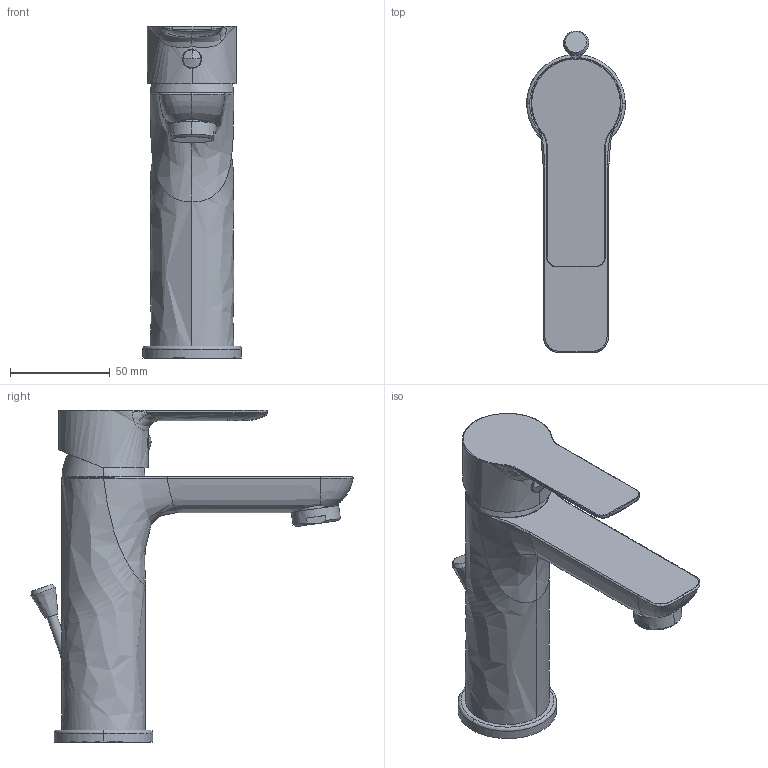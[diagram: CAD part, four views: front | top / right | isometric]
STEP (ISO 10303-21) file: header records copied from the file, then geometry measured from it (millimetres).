
FILE_DESCRIPTION(/* description */ (''),/* implementation_level */ '2;1');
FILE_NAME(/* name */ 'A11020002010',/* time_stamp */ '2019-10-21T15:53:45+02:00',/* author */ (''),/* organization */ (''),/* preprocessor_version */ 'ST-DEVELOPER v15',/* originating_system */ '',/* authorisation */ '');
FILE_SCHEMA (('AUTOMOTIVE_DESIGN'));
Length unit declared in the file: millimetre
Products named in the file (1): Document
Bounding box: 49.5 x 161.53 x 166.5 mm (x, y, z)
Volume: 8678.3 mm3; surface area: 45616.1 mm2
Topology: 3 solids, 8 shells, 141 faces, 330 edges, 204 vertices
Faces by surface type: bspline 109, plane 32
Entity records: 9914 total; most frequent: CARTESIAN_POINT 8014, ORIENTED_EDGE 626, EDGE_CURVE 327, VERTEX_POINT 204, EDGE_LOOP 159, ADVANCED_FACE 141, FACE_OUTER_BOUND 141, B_SPLINE_CURVE_WITH_KNOTS 120
